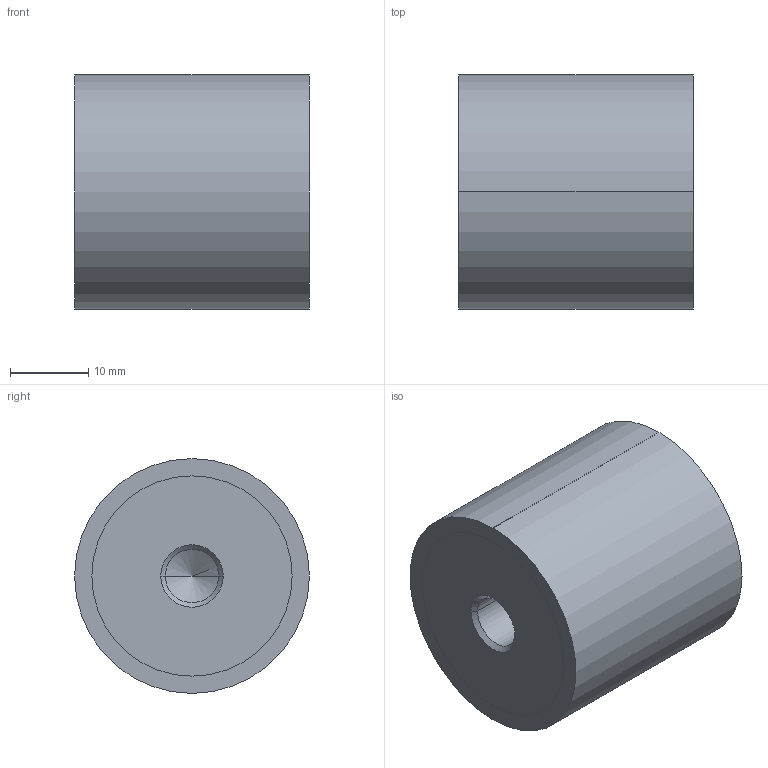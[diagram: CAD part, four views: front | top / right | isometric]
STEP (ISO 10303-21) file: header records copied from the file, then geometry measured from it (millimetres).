
FILE_DESCRIPTION (( 'STEP AP214' ), '1' );
FILE_NAME ('451-30-30-M8-EE-40.step', '2020-03-05T09:12:16', ( '' ), ( '' ), 'SwSTEP 2.0', 'SolidWorks 2019', '' );
FILE_SCHEMA (( 'AUTOMOTIVE_DESIGN' ));
Length unit declared in the file: millimetre
Products named in the file (1): 451-30-30-M8-EE-40
Bounding box: 30 x 30 x 30 mm (x, y, z)
Volume: 20557.8 mm3; surface area: 4582.4 mm2
Topology: 1 solids, 1 shells, 22 faces, 46 edges, 26 vertices
Faces by surface type: cylinder 10, cone 8, plane 4
Entity records: 684 total; most frequent: DIRECTION 112, CARTESIAN_POINT 91, ORIENTED_EDGE 84, AXIS2_PLACEMENT_3D 47, EDGE_CURVE 42, EDGE_LOOP 26, VERTEX_POINT 26, CIRCLE 24
